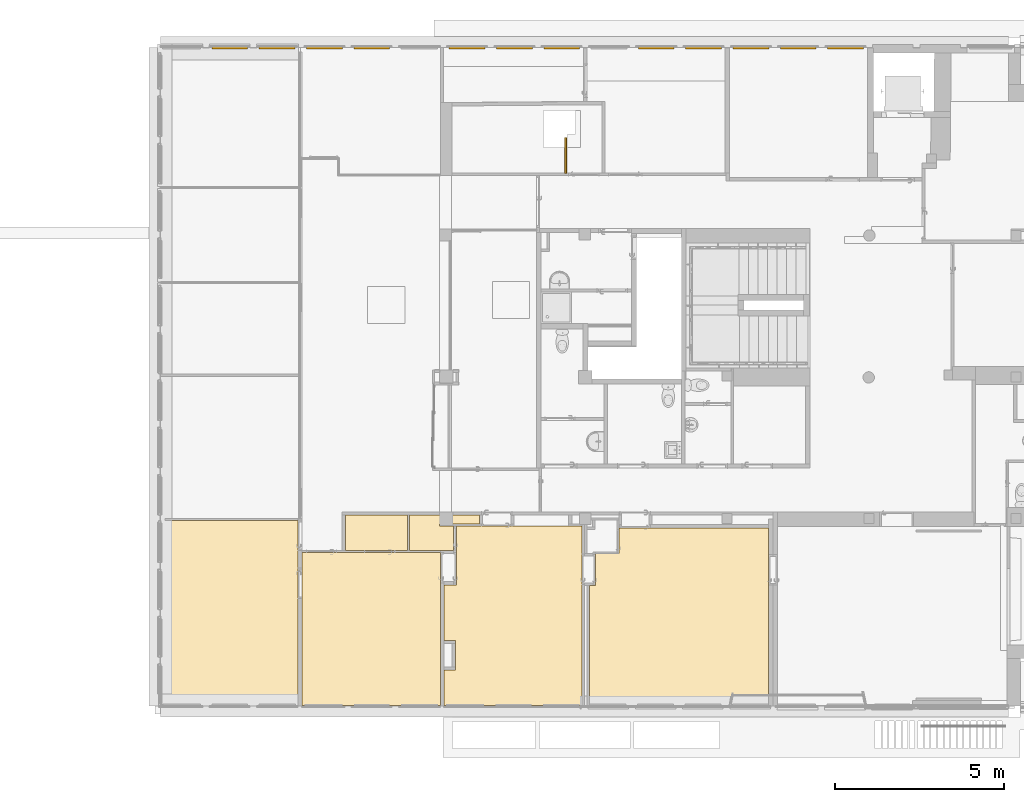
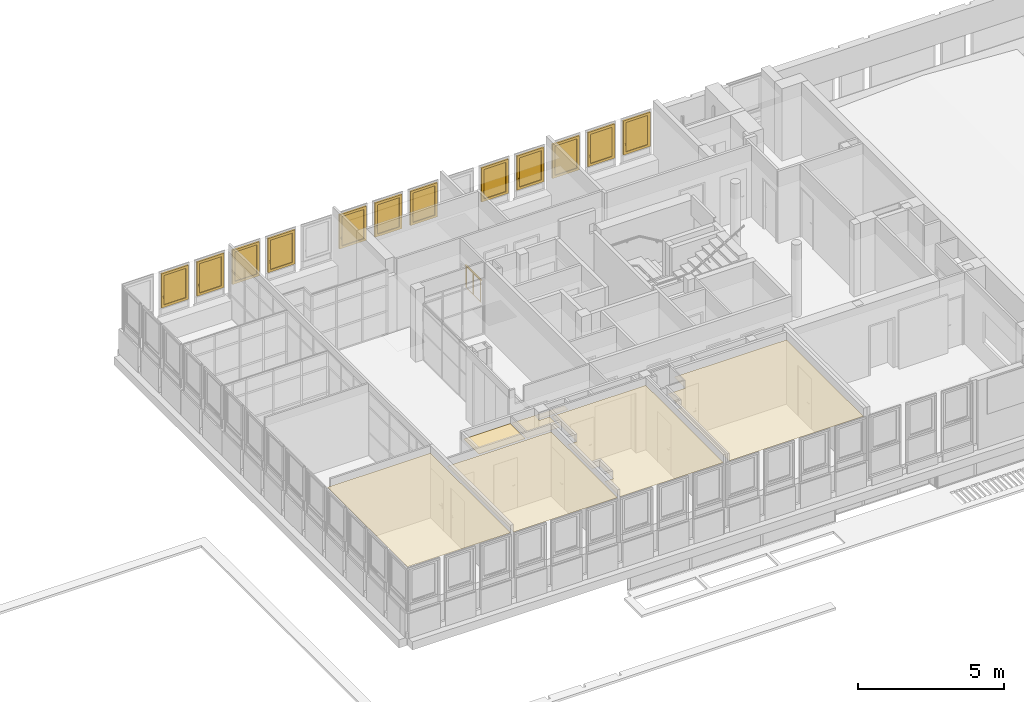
# One storey, part 87 of 97: 12 windows, 6 coverings, 1 railing, 12 elements without a shape of their own.
"""IFC4 building model written with IfcOpenShell, lengths in metres."""

from ifc_helpers import new_model, entity, si_unit, converted_unit, derived_unit, direction, frame, origin, place, context, subcontext, project, spatial, indexed_curve, outline, extrude, polygons, source, transform, mapped, material, material_list, layer, layer_set, constituent, constituent_set, type_object, type_shapes, element, aggregate, save


model = new_model("IFC4")

# Units and contexts
model_context = context("Model", 3, precision=1e-05, world=origin(), true_north=direction((6.12303176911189e-17, 1.0)))
body_context = subcontext(model_context, "Body", "Model", "MODEL_VIEW")
ifc_project = project(units=[si_unit("LENGTHUNIT", "METRE"), si_unit("AREAUNIT", "SQUARE_METRE"), si_unit("VOLUMEUNIT", "CUBIC_METRE"), converted_unit("PLANEANGLEUNIT", "DEGREE", entity("IfcRatioMeasure", 0.0174532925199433), si_unit("PLANEANGLEUNIT", "RADIAN"), dimensions=[0, 0, 0, 0, 0, 0, 0]), si_unit("MASSUNIT", "GRAM", prefix="KILO"), derived_unit("MASSDENSITYUNIT", [(si_unit("MASSUNIT", "GRAM", prefix="KILO"), 1), (si_unit("LENGTHUNIT", "METRE"), -3)]), derived_unit("MOMENTOFINERTIAUNIT", [(si_unit("LENGTHUNIT", "METRE"), 4)]), si_unit("TIMEUNIT", "SECOND"), si_unit("FREQUENCYUNIT", "HERTZ"), si_unit("THERMODYNAMICTEMPERATUREUNIT", "DEGREE_CELSIUS"), derived_unit("THERMALTRANSMITTANCEUNIT", [(si_unit("MASSUNIT", "GRAM", prefix="KILO"), 1), (si_unit("THERMODYNAMICTEMPERATUREUNIT", "KELVIN"), -1), (si_unit("TIMEUNIT", "SECOND"), -3)]), derived_unit("VOLUMETRICFLOWRATEUNIT", [(si_unit("LENGTHUNIT", "METRE"), 3), (si_unit("TIMEUNIT", "SECOND"), -1)]), si_unit("ELECTRICCURRENTUNIT", "AMPERE"), si_unit("ELECTRICVOLTAGEUNIT", "VOLT"), si_unit("POWERUNIT", "WATT"), si_unit("FORCEUNIT", "NEWTON", prefix="KILO"), si_unit("ILLUMINANCEUNIT", "LUX"), si_unit("LUMINOUSFLUXUNIT", "LUMEN"), si_unit("LUMINOUSINTENSITYUNIT", "CANDELA"), derived_unit("USERDEFINED", [(si_unit("MASSUNIT", "GRAM", prefix="KILO"), -1), (si_unit("LENGTHUNIT", "METRE"), -2), (si_unit("TIMEUNIT", "SECOND"), 3), (si_unit("LUMINOUSFLUXUNIT", "LUMEN"), 1)]), derived_unit("LINEARVELOCITYUNIT", [(si_unit("LENGTHUNIT", "METRE"), 1), (si_unit("TIMEUNIT", "SECOND"), -1)]), si_unit("PRESSUREUNIT", "PASCAL"), derived_unit("USERDEFINED", [(si_unit("LENGTHUNIT", "METRE"), -2), (si_unit("MASSUNIT", "GRAM", prefix="KILO"), 1), (si_unit("TIMEUNIT", "SECOND"), -2)]), derived_unit("LINEARFORCEUNIT", [(si_unit("MASSUNIT", "GRAM", prefix="KILO"), 1), (si_unit("LENGTHUNIT", "METRE"), 1), (si_unit("TIMEUNIT", "SECOND"), -2), (si_unit("LENGTHUNIT", "METRE"), -1)]), derived_unit("PLANARFORCEUNIT", [(si_unit("MASSUNIT", "GRAM", prefix="KILO"), 1), (si_unit("LENGTHUNIT", "METRE"), 1), (si_unit("TIMEUNIT", "SECOND"), -2), (si_unit("LENGTHUNIT", "METRE"), -2)])], contexts=[model_context])

# Site, building, storey
site_placement = place(None, origin())
site = spatial("IfcSite", under=ifc_project, at=site_placement, Name="Default", CompositionType="ELEMENT")
building_placement = place(site_placement, origin())
building = spatial("IfcBuilding", under=site, at=building_placement, Name="HOTEL CONSULAIRE BOULOGNE SUR MER", CompositionType="ELEMENT")
storey_placement = place(building_placement, frame((0.0, 0.0, 3.62152697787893)))
storey = spatial("IfcBuildingStorey", under=building, at=storey_placement, Name="Niveau 1", CompositionType="ELEMENT", Elevation=3.62152697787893)

# Curtain wall, window
curtain_wall_type = type_object("IfcCurtainWallType", Name="Mur-rideau:Simple panneau", PredefinedType="NOTDEFINED")
curtain_wall_1_placement = place(storey_placement, frame((0.0, 0.0, -3.62152697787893)))
curtain_wall_1 = element("IfcCurtainWall", 1, at=curtain_wall_1_placement, inside=storey, type_object=curtain_wall_type, Name="Mur-rideau:Simple panneau", ObjectType="Mur-rideau:Simple panneau", PredefinedType="NOTDEFINED")
ifc_material_1 = material(Name="PVC - Blanc", Category="Plastique")
ifc_constituent_1 = constituent(ifc_material_1, Name="PVC - Blanc", Category="Matériaux")
ifc_material_2 = material(Name="Fenêtre - Vitrage", Category="Verre")
ifc_constituent_2 = constituent(ifc_material_2, Name="Fenêtre - Vitrage", Category="Matériaux")
ifc_constituent_set_1 = constituent_set(constituents=[ifc_constituent_1, ifc_constituent_2], Name="MaterialConstituentSet")
ifc_material_list = material_list([ifc_material_1, ifc_material_1])
window_type = type_object("IfcWindowType", Name="MR 1 Vantail:MR 1 Vantail", PartitioningType="NOTDEFINED", PredefinedType="WINDOW", material=ifc_material_list)
shared_shape = source(origin(), body_context, "Body", "Tessellation", [
    polygons([(-0.460646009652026, -0.0492408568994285, 0.472033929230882), (-0.449353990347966, -0.0492408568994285, 0.472033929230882), (-0.447966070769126, -0.0492408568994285, 0.470646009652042), (-0.447966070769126, -0.0492408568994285, 0.459332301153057), (-0.449332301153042, -0.0492408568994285, 0.457966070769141), (-0.460667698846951, -0.0492408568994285, 0.457966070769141), (-0.462033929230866, -0.0492408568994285, 0.459332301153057), (-0.462033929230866, -0.0492408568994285, 0.470646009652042), (-0.462033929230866, -0.0615795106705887, 0.470646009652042), (-0.460646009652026, -0.0621544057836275, 0.472033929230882), (-0.462033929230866, -0.0568932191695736, 0.459332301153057), (-0.462033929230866, -0.063573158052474, 0.452652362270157), (-0.462033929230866, -0.0635731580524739, 0.370000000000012), (-0.462033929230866, -0.0748868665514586, 0.370000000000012), (-0.462033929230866, -0.0748868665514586, 0.457338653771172), (-0.460667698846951, -0.0563273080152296, 0.457966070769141), (-0.449332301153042, -0.0563273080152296, 0.457966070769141), (-0.447966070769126, -0.0568932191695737, 0.459332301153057), (-0.447966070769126, -0.0615795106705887, 0.470646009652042), (-0.447966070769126, -0.0748868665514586, 0.457338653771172), (-0.447966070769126, -0.0748868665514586, 0.370000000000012), (-0.447966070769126, -0.0635731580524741, 0.370000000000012), (-0.447966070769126, -0.0635731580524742, 0.452652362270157), (-0.449353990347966, -0.0621544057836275, 0.472033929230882), (-0.460646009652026, -0.0762747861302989, 0.457913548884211), (-0.460667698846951, -0.0622069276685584, 0.452086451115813), (-0.449332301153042, -0.0622069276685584, 0.452086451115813), (-0.449353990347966, -0.0762747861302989, 0.457913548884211), (-0.460646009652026, -0.0762747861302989, 0.370000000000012), (-0.460667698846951, -0.0622069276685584, 0.370000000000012), (-0.449332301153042, -0.0622069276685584, 0.370000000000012), (-0.449353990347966, -0.0762747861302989, 0.370000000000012)], [[[6, 7, 8, 1, 2, 3, 4, 5]], [[30, 26, 27, 31]], [[9, 10, 1, 8]], [[11, 12, 13, 14, 15, 9, 8, 7]], [[16, 11, 7, 6]], [[16, 6, 5, 17]], [[31, 22, 21, 32, 29, 14, 13, 30]], [[17, 5, 4, 18]], [[3, 19, 20, 21, 22, 23, 18, 4]], [[19, 3, 2, 24]], [[24, 2, 1, 10]], [[15, 25, 10, 9]], [[26, 12, 11, 16]], [[27, 26, 16, 17]], [[27, 17, 18, 23]], [[20, 19, 24, 28]], [[28, 24, 10, 25]], [[29, 25, 15, 14]], [[13, 12, 26, 30]], [[22, 31, 27, 23]], [[32, 21, 20, 28]], [[32, 28, 25, 29]]], closed=True),
    polygons([(-0.46200000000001, -0.0432408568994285, 0.490000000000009), (-0.447999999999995, -0.0432408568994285, 0.490000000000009), (-0.442999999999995, -0.0432408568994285, 0.48500000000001), (-0.442999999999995, -0.0432408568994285, 0.414999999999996), (-0.447999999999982, -0.0432408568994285, 0.410000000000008), (-0.46200000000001, -0.0432408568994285, 0.410000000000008), (-0.466999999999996, -0.0432408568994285, 0.414999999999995), (-0.466999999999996, -0.0432408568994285, 0.48500000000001), (-0.46200000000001, -0.0492408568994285, 0.490000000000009), (-0.466999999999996, -0.0492408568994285, 0.48500000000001), (-0.466999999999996, -0.0492408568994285, 0.414999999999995), (-0.46200000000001, -0.0492408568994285, 0.410000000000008), (-0.447999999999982, -0.0492408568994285, 0.410000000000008), (-0.442999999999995, -0.0492408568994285, 0.414999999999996), (-0.442999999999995, -0.0492408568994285, 0.48500000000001), (-0.447999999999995, -0.0492408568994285, 0.490000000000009)], [[[2, 3, 4, 5, 6, 7, 8, 1]], [[13, 14, 15, 16, 9, 10, 11, 12]], [[9, 1, 8, 10]], [[10, 8, 7, 11]], [[11, 7, 6, 12]], [[12, 6, 5, 13]], [[13, 5, 4, 14]], [[15, 14, 4, 3]], [[15, 3, 2, 16]], [[16, 2, 1, 9]]], closed=True),
    polygons([(0.430000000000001, -0.0192408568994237, 1.32586048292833), (-0.430000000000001, -0.0192408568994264, 1.32586048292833), (-0.430000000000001, -0.0192408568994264, 0.1), (0.430000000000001, -0.0192408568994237, 0.1), (0.430000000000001, -0.00724085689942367, 1.32586048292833), (0.430000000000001, -0.00724085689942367, 0.1), (-0.430000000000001, -0.00724085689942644, 0.1), (-0.430000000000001, -0.00724085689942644, 1.32586048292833)], [[[4, 1, 2, 3]], [[7, 8, 5, 6]], [[2, 1, 5, 8]], [[3, 2, 8, 7]], [[4, 3, 7, 6]], [[1, 4, 6, 5]]], closed=True),
    polygons([(-0.480000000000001, 0.0167591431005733, 1.37586048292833), (-0.480000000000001, -0.043240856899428, 1.37586048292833), (0.480000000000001, -0.043240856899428, 1.37586048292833), (0.48, 0.0167591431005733, 1.37586048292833), (-0.430000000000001, -0.043240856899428, 1.32586048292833), (-0.430000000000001, 0.0167591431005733, 1.32586048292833), (0.430000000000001, 0.0167591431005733, 1.32586048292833), (0.430000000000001, -0.043240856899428, 1.32586048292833), (0.48, -0.043240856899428, 0.0500000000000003), (0.48, 0.0167591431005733, 0.0500000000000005), (0.430000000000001, 0.0167591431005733, 0.1), (0.430000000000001, -0.043240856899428, 0.1), (-0.480000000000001, -0.043240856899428, 0.0500000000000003), (-0.480000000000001, 0.0167591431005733, 0.0500000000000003), (-0.430000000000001, 0.0167591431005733, 0.1), (-0.430000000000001, -0.043240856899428, 0.1)], [[[1, 2, 3, 4]], [[12, 11, 15, 16]], [[5, 6, 7, 8]], [[10, 9, 13, 14]], [[4, 3, 9, 10]], [[16, 15, 6, 5]], [[8, 7, 11, 12]], [[14, 13, 2, 1]], [[9, 3, 2, 13], [16, 5, 8, 12]], [[14, 1, 4, 10], [11, 7, 6, 15]]], closed=True),
    polygons([(-0.47, 0.016759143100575, 1.36586048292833), (-0.47, 0.0267591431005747, 1.36586048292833), (0.47, 0.0267591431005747, 1.36586048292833), (0.47, 0.016759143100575, 1.36586048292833), (-0.48, -0.0432408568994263, 1.37586048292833), (-0.48, 0.016759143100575, 1.37586048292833), (0.48, 0.016759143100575, 1.37586048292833), (0.48, -0.0432408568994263, 1.37586048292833), (-0.53, 0.0267591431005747, 1.42586048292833), (-0.53, -0.0432408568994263, 1.42586048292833), (0.53, -0.0432408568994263, 1.42586048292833), (0.53, 0.0267591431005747, 1.42586048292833), (0.47, 0.0267591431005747, 0.0600000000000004), (0.47, 0.016759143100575, 0.0600000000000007), (0.48, 0.016759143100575, 0.0500000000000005), (0.48, -0.0432408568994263, 0.0500000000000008), (0.53, -0.0432408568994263, 5.41433564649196e-16), (0.53, 0.0267591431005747, 5.41433564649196e-16), (-0.47, 0.0267591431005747, 0.0600000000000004), (-0.47, 0.016759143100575, 0.0600000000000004), (-0.48, 0.016759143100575, 0.0500000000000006), (-0.48, -0.0432408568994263, 0.0500000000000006), (-0.53, -0.0432408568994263, 5.41433564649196e-16), (-0.53, 0.0267591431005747, 5.41433564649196e-16)], [[[1, 2, 3, 4]], [[5, 6, 7, 8]], [[18, 17, 23, 24]], [[9, 10, 11, 12]], [[14, 13, 19, 20]], [[16, 15, 21, 22]], [[4, 3, 13, 14]], [[8, 7, 15, 16]], [[24, 23, 10, 9]], [[12, 11, 17, 18]], [[20, 19, 2, 1]], [[22, 21, 6, 5]], [[24, 9, 12, 18], [13, 3, 2, 19]], [[15, 7, 6, 21], [20, 1, 4, 14]], [[17, 11, 10, 23], [22, 5, 8, 16]]], closed=True),
])
type_shapes(window_type, [shared_shape])
window_1_placement = place(curtain_wall_1_placement, frame((-11.7414199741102, -10.0746323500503, 4.79613951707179)))
window_1 = element("IfcWindow", 2, at=window_1_placement, type_object=window_type, material=ifc_constituent_set_1, Name="MR 1 Vantail:MR 1 Vantail", ObjectType="MR 1 Vantail:MR 1 Vantail", OverallHeight=1.42586048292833, OverallWidth=1.06, PartitioningType="NOTDEFINED", PredefinedType="WINDOW", context=body_context, shape_type="MappedRepresentation", body=[
    mapped(shared_shape, transform((0.0, 0.0, 0.0), scale=1.0)),
])
aggregate(curtain_wall_1, [window_1])

curtain_wall_2_placement = place(storey_placement, frame((0.0, 0.0, -3.62152697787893)))
curtain_wall_2 = element("IfcCurtainWall", 3, at=curtain_wall_2_placement, inside=storey, type_object=curtain_wall_type, Name="Mur-rideau:Simple panneau", ObjectType="Mur-rideau:Simple panneau", PredefinedType="NOTDEFINED")
ifc_constituent_3 = constituent(ifc_material_1, Name="PVC - Blanc", Category="Matériaux")
ifc_constituent_4 = constituent(ifc_material_2, Name="Fenêtre - Vitrage", Category="Matériaux")
ifc_constituent_set_2 = constituent_set(constituents=[ifc_constituent_3, ifc_constituent_4], Name="MaterialConstituentSet")
window_2_placement = place(curtain_wall_2_placement, frame((-10.3414199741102, -10.0746323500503, 4.79613951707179)))
window_2 = element("IfcWindow", 4, at=window_2_placement, type_object=window_type, material=ifc_constituent_set_2, Name="MR 1 Vantail:MR 1 Vantail", ObjectType="MR 1 Vantail:MR 1 Vantail", OverallHeight=1.42586048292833, OverallWidth=1.06, PartitioningType="NOTDEFINED", PredefinedType="WINDOW", context=body_context, shape_type="MappedRepresentation", body=[
    mapped(shared_shape, transform((0.0, 0.0, 0.0), scale=1.0)),
])
aggregate(curtain_wall_2, [window_2])

curtain_wall_3_placement = place(storey_placement, frame((0.0, 0.0, -3.62152697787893)))
curtain_wall_3 = element("IfcCurtainWall", 5, at=curtain_wall_3_placement, inside=storey, type_object=curtain_wall_type, Name="Mur-rideau:Simple panneau", ObjectType="Mur-rideau:Simple panneau", PredefinedType="NOTDEFINED")
ifc_constituent_5 = constituent(ifc_material_1, Name="PVC - Blanc", Category="Matériaux")
ifc_constituent_6 = constituent(ifc_material_2, Name="Fenêtre - Vitrage", Category="Matériaux")
ifc_constituent_set_3 = constituent_set(constituents=[ifc_constituent_5, ifc_constituent_6], Name="MaterialConstituentSet")
window_3_placement = place(curtain_wall_3_placement, frame((-8.94141997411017, -10.0746323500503, 4.79613951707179)))
window_3 = element("IfcWindow", 6, at=window_3_placement, type_object=window_type, material=ifc_constituent_set_3, Name="MR 1 Vantail:MR 1 Vantail", ObjectType="MR 1 Vantail:MR 1 Vantail", OverallHeight=1.42586048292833, OverallWidth=1.06, PartitioningType="NOTDEFINED", PredefinedType="WINDOW", context=body_context, shape_type="MappedRepresentation", body=[
    mapped(shared_shape, transform((0.0, 0.0, 0.0), scale=1.0)),
])
aggregate(curtain_wall_3, [window_3])

curtain_wall_4_placement = place(storey_placement, frame((0.0, 0.0, -3.62152697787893)))
curtain_wall_4 = element("IfcCurtainWall", 7, at=curtain_wall_4_placement, inside=storey, type_object=curtain_wall_type, Name="Mur-rideau:Simple panneau", ObjectType="Mur-rideau:Simple panneau", PredefinedType="NOTDEFINED")
ifc_constituent_7 = constituent(ifc_material_1, Name="PVC - Blanc", Category="Matériaux")
ifc_constituent_8 = constituent(ifc_material_2, Name="Fenêtre - Vitrage", Category="Matériaux")
ifc_constituent_set_4 = constituent_set(constituents=[ifc_constituent_7, ifc_constituent_8], Name="MaterialConstituentSet")
window_4_placement = place(curtain_wall_4_placement, frame((-7.54141997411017, -10.0746323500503, 4.79613951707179)))
window_4 = element("IfcWindow", 8, at=window_4_placement, type_object=window_type, material=ifc_constituent_set_4, Name="MR 1 Vantail:MR 1 Vantail", ObjectType="MR 1 Vantail:MR 1 Vantail", OverallHeight=1.42586048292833, OverallWidth=1.06, PartitioningType="NOTDEFINED", PredefinedType="WINDOW", context=body_context, shape_type="MappedRepresentation", body=[
    mapped(shared_shape, transform((0.0, 0.0, 0.0), scale=1.0)),
])
aggregate(curtain_wall_4, [window_4])

curtain_wall_5_placement = place(storey_placement, frame((0.0, 0.0, -3.62152697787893)))
curtain_wall_5 = element("IfcCurtainWall", 9, at=curtain_wall_5_placement, inside=storey, type_object=curtain_wall_type, Name="Mur-rideau:Simple panneau", ObjectType="Mur-rideau:Simple panneau", PredefinedType="NOTDEFINED")
ifc_constituent_9 = constituent(ifc_material_1, Name="PVC - Blanc", Category="Matériaux")
ifc_constituent_10 = constituent(ifc_material_2, Name="Fenêtre - Vitrage", Category="Matériaux")
ifc_constituent_set_5 = constituent_set(constituents=[ifc_constituent_9, ifc_constituent_10], Name="MaterialConstituentSet")
window_5_placement = place(curtain_wall_5_placement, frame((-4.71977317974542, -10.0746323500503, 4.79613951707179)))
window_5 = element("IfcWindow", 10, at=window_5_placement, type_object=window_type, material=ifc_constituent_set_5, Name="MR 1 Vantail:MR 1 Vantail", ObjectType="MR 1 Vantail:MR 1 Vantail", OverallHeight=1.42586048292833, OverallWidth=1.06, PartitioningType="NOTDEFINED", PredefinedType="WINDOW", context=body_context, shape_type="MappedRepresentation", body=[
    mapped(shared_shape, transform((0.0, 0.0, 0.0), scale=1.0)),
])
aggregate(curtain_wall_5, [window_5])

curtain_wall_6_placement = place(storey_placement, frame((0.0, 0.0, -3.62152697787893)))
curtain_wall_6 = element("IfcCurtainWall", 11, at=curtain_wall_6_placement, inside=storey, type_object=curtain_wall_type, Name="Mur-rideau:Simple panneau", ObjectType="Mur-rideau:Simple panneau", PredefinedType="NOTDEFINED")
ifc_constituent_11 = constituent(ifc_material_1, Name="PVC - Blanc", Category="Matériaux")
ifc_constituent_12 = constituent(ifc_material_2, Name="Fenêtre - Vitrage", Category="Matériaux")
ifc_constituent_set_6 = constituent_set(constituents=[ifc_constituent_11, ifc_constituent_12], Name="MaterialConstituentSet")
window_6_placement = place(curtain_wall_6_placement, frame((-3.31977317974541, -10.0746323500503, 4.79613951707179)))
window_6 = element("IfcWindow", 12, at=window_6_placement, type_object=window_type, material=ifc_constituent_set_6, Name="MR 1 Vantail:MR 1 Vantail", ObjectType="MR 1 Vantail:MR 1 Vantail", OverallHeight=1.42586048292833, OverallWidth=1.06, PartitioningType="NOTDEFINED", PredefinedType="WINDOW", context=body_context, shape_type="MappedRepresentation", body=[
    mapped(shared_shape, transform((0.0, 0.0, 0.0), scale=1.0)),
])
aggregate(curtain_wall_6, [window_6])

curtain_wall_7_placement = place(storey_placement, frame((0.0, 0.0, -3.62152697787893)))
curtain_wall_7 = element("IfcCurtainWall", 13, at=curtain_wall_7_placement, inside=storey, type_object=curtain_wall_type, Name="Mur-rideau:Simple panneau", ObjectType="Mur-rideau:Simple panneau", PredefinedType="NOTDEFINED")
ifc_constituent_13 = constituent(ifc_material_1, Name="PVC - Blanc", Category="Matériaux")
ifc_constituent_14 = constituent(ifc_material_2, Name="Fenêtre - Vitrage", Category="Matériaux")
ifc_constituent_set_7 = constituent_set(constituents=[ifc_constituent_13, ifc_constituent_14], Name="MaterialConstituentSet")
window_7_placement = place(curtain_wall_7_placement, frame((-1.91977317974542, -10.0746323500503, 4.79613951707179)))
window_7 = element("IfcWindow", 14, at=window_7_placement, type_object=window_type, material=ifc_constituent_set_7, Name="MR 1 Vantail:MR 1 Vantail", ObjectType="MR 1 Vantail:MR 1 Vantail", OverallHeight=1.42586048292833, OverallWidth=1.06, PartitioningType="NOTDEFINED", PredefinedType="WINDOW", context=body_context, shape_type="MappedRepresentation", body=[
    mapped(shared_shape, transform((0.0, 0.0, 0.0), scale=1.0)),
])
aggregate(curtain_wall_7, [window_7])

curtain_wall_8_placement = place(storey_placement, frame((0.0, 0.0, -3.62152697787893)))
curtain_wall_8 = element("IfcCurtainWall", 15, at=curtain_wall_8_placement, inside=storey, type_object=curtain_wall_type, Name="Mur-rideau:Simple panneau", ObjectType="Mur-rideau:Simple panneau", PredefinedType="NOTDEFINED")
ifc_constituent_15 = constituent(ifc_material_1, Name="PVC - Blanc", Category="Matériaux")
ifc_constituent_16 = constituent(ifc_material_2, Name="Fenêtre - Vitrage", Category="Matériaux")
ifc_constituent_set_8 = constituent_set(constituents=[ifc_constituent_15, ifc_constituent_16], Name="MaterialConstituentSet")
window_8_placement = place(curtain_wall_8_placement, frame((0.877578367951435, -10.0746323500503, 4.79613951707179)))
window_8 = element("IfcWindow", 16, at=window_8_placement, type_object=window_type, material=ifc_constituent_set_8, Name="MR 1 Vantail:MR 1 Vantail", ObjectType="MR 1 Vantail:MR 1 Vantail", OverallHeight=1.42586048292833, OverallWidth=1.06, PartitioningType="NOTDEFINED", PredefinedType="WINDOW", context=body_context, shape_type="MappedRepresentation", body=[
    mapped(shared_shape, transform((0.0, 0.0, 0.0), scale=1.0)),
])
aggregate(curtain_wall_8, [window_8])

curtain_wall_9_placement = place(storey_placement, frame((0.0, 0.0, -3.62152697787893)))
curtain_wall_9 = element("IfcCurtainWall", 17, at=curtain_wall_9_placement, inside=storey, type_object=curtain_wall_type, Name="Mur-rideau:Simple panneau", ObjectType="Mur-rideau:Simple panneau", PredefinedType="NOTDEFINED")
ifc_constituent_17 = constituent(ifc_material_1, Name="PVC - Blanc", Category="Matériaux")
ifc_constituent_18 = constituent(ifc_material_2, Name="Fenêtre - Vitrage", Category="Matériaux")
ifc_constituent_set_9 = constituent_set(constituents=[ifc_constituent_17, ifc_constituent_18], Name="MaterialConstituentSet")
window_9_placement = place(curtain_wall_9_placement, frame((2.27757836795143, -10.0746323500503, 4.79613951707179)))
window_9 = element("IfcWindow", 18, at=window_9_placement, type_object=window_type, material=ifc_constituent_set_9, Name="MR 1 Vantail:MR 1 Vantail", ObjectType="MR 1 Vantail:MR 1 Vantail", OverallHeight=1.42586048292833, OverallWidth=1.06, PartitioningType="NOTDEFINED", PredefinedType="WINDOW", context=body_context, shape_type="MappedRepresentation", body=[
    mapped(shared_shape, transform((0.0, 0.0, 0.0), scale=1.0)),
])
aggregate(curtain_wall_9, [window_9])

curtain_wall_10_placement = place(storey_placement, frame((0.0, 0.0, -3.62152697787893)))
curtain_wall_10 = element("IfcCurtainWall", 19, at=curtain_wall_10_placement, inside=storey, type_object=curtain_wall_type, Name="Mur-rideau:Simple panneau", ObjectType="Mur-rideau:Simple panneau", PredefinedType="NOTDEFINED")
ifc_constituent_19 = constituent(ifc_material_1, Name="PVC - Blanc", Category="Matériaux")
ifc_constituent_20 = constituent(ifc_material_2, Name="Fenêtre - Vitrage", Category="Matériaux")
ifc_constituent_set_10 = constituent_set(constituents=[ifc_constituent_19, ifc_constituent_20], Name="MaterialConstituentSet")
window_10_placement = place(curtain_wall_10_placement, frame((3.67857836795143, -10.0746323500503, 4.79613951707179)))
window_10 = element("IfcWindow", 20, at=window_10_placement, type_object=window_type, material=ifc_constituent_set_10, Name="MR 1 Vantail:MR 1 Vantail", ObjectType="MR 1 Vantail:MR 1 Vantail", OverallHeight=1.42586048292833, OverallWidth=1.06, PartitioningType="NOTDEFINED", PredefinedType="WINDOW", context=body_context, shape_type="MappedRepresentation", body=[
    mapped(shared_shape, transform((0.0, 0.0, 0.0), scale=1.0)),
])
aggregate(curtain_wall_10, [window_10])

curtain_wall_11_placement = place(storey_placement, frame((0.0, 0.0, -3.62152697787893)))
curtain_wall_11 = element("IfcCurtainWall", 21, at=curtain_wall_11_placement, inside=storey, type_object=curtain_wall_type, Name="Mur-rideau:Simple panneau", ObjectType="Mur-rideau:Simple panneau", PredefinedType="NOTDEFINED")
ifc_constituent_21 = constituent(ifc_material_1, Name="PVC - Blanc", Category="Matériaux")
ifc_constituent_22 = constituent(ifc_material_2, Name="Fenêtre - Vitrage", Category="Matériaux")
ifc_constituent_set_11 = constituent_set(constituents=[ifc_constituent_21, ifc_constituent_22], Name="MaterialConstituentSet")
window_11_placement = place(curtain_wall_11_placement, frame((5.07757836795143, -10.0746323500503, 4.79613951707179)))
window_11 = element("IfcWindow", 22, at=window_11_placement, type_object=window_type, material=ifc_constituent_set_11, Name="MR 1 Vantail:MR 1 Vantail", ObjectType="MR 1 Vantail:MR 1 Vantail", OverallHeight=1.42586048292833, OverallWidth=1.06, PartitioningType="NOTDEFINED", PredefinedType="WINDOW", context=body_context, shape_type="MappedRepresentation", body=[
    mapped(shared_shape, transform((0.0, 0.0, 0.0), scale=1.0)),
])
aggregate(curtain_wall_11, [window_11])

curtain_wall_12_placement = place(storey_placement, frame((0.0, 0.0, -3.62152697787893)))
curtain_wall_12 = element("IfcCurtainWall", 23, at=curtain_wall_12_placement, inside=storey, type_object=curtain_wall_type, Name="Mur-rideau:Simple panneau", ObjectType="Mur-rideau:Simple panneau", PredefinedType="NOTDEFINED")
ifc_constituent_23 = constituent(ifc_material_1, Name="PVC - Blanc", Category="Matériaux")
ifc_constituent_24 = constituent(ifc_material_2, Name="Fenêtre - Vitrage", Category="Matériaux")
ifc_constituent_set_12 = constituent_set(constituents=[ifc_constituent_23, ifc_constituent_24], Name="MaterialConstituentSet")
window_12_placement = place(curtain_wall_12_placement, frame((6.47757836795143, -10.0746323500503, 4.79613951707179)))
window_12 = element("IfcWindow", 24, at=window_12_placement, type_object=window_type, material=ifc_constituent_set_12, Name="MR 1 Vantail:MR 1 Vantail", ObjectType="MR 1 Vantail:MR 1 Vantail", OverallHeight=1.42586048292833, OverallWidth=1.06, PartitioningType="NOTDEFINED", PredefinedType="WINDOW", context=body_context, shape_type="MappedRepresentation", body=[
    mapped(shared_shape, transform((0.0, 0.0, 0.0), scale=1.0)),
])
aggregate(curtain_wall_12, [window_12])

# Coverings
ifc_material_3 = material(Name="Faux-plafond - Trame 600 x 600", Category="Divers")
ifc_layer = layer(ifc_material_3, 0.0, Name="Faux-plafond - Trame 600 x 600", Category="Divers")
ifc_layer_set = layer_set([ifc_layer], Name="Plafond de base:Plafond 600 mm x 1200 mm")
covering_type_1 = type_object("IfcCoveringType", Name="Plafond de base:Plafond 600 mm x 1200 mm", PredefinedType="CEILING")
covering_1_placement = place(storey_placement, frame((-13.7870998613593, -29.5501047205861, 2.7009)))
element("IfcCovering", 25, at=covering_1_placement, inside=storey, type_object=covering_type_1, material=ifc_layer_set, Name="Plafond de base:Plafond 600 mm x 1200 mm", ObjectType="Plafond de base:Plafond 600 mm x 1200 mm", PredefinedType="CEILING", context=body_context, shape_type="Tessellation", body=[
    polygons([(6.49720277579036e-15, 4.23865481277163, 0.0), (4.33146851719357e-15, 2.83865481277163, 0.0), (2.16573425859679e-15, 1.43865481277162, 0.0), (0.0, 1.29944055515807e-14, 0.0), (1.24567988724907, 8.66293703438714e-15, 0.0), (2.64567988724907, 4.33146851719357e-15, 0.0), (4.06269787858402, 0.0, 0.0), (4.06269787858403, 5.47084511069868, 0.0), (8.66293703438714e-15, 5.47084511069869, 0.0)], [[[3, 4, 5, 6, 7, 8, 9, 1, 2]]], closed=True),
])
covering_type_2 = type_object("IfcCoveringType", Name="Plafond de base:Plafond 600 mm x 1200 mm", PredefinedType="CEILING")
covering_2_placement = place(storey_placement, frame((-9.60440198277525, -29.5501047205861, 2.6884)))
element("IfcCovering", 26, at=covering_2_placement, inside=storey, type_object=covering_type_2, material=ifc_layer_set, Name="Plafond de base:Plafond 600 mm x 1200 mm", ObjectType="Plafond de base:Plafond 600 mm x 1200 mm", PredefinedType="CEILING", context=body_context, shape_type="Tessellation", body=[
    polygons([(1.26298200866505, 8.66293703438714e-15, 0.0), (2.66298200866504, 4.33146851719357e-15, 0.0), (4.09725891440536, 0.0, 0.0), (4.09725891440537, 4.52645726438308, 0.0), (7.58006990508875e-15, 4.5264572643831, 0.0), (0.0, 1.29944055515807e-14, 0.0)], [[[5, 6, 1, 2, 3, 4]]], closed=True),
])
covering_type_3 = type_object("IfcCoveringType", Name="Plafond de base:Plafond 600 mm x 1200 mm", PredefinedType="CEILING")
covering_3_placement = place(storey_placement, frame((-5.40714306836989, -29.5501047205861, 2.6886)))
element("IfcCovering", 27, at=covering_3_placement, inside=storey, type_object=covering_type_3, material=ifc_layer_set, Name="Plafond de base:Plafond 600 mm x 1200 mm", ObjectType="Plafond de base:Plafond 600 mm x 1200 mm", PredefinedType="CEILING", context=body_context, shape_type="Tessellation", body=[
    polygons([(1.26572309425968, 8.66293703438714e-15, 0.0), (2.66572309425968, 4.33146851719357e-15, 0.0), (4.08299853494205, 0.0, 0.0), (4.08299853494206, 5.30806462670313, 0.0), (0.36936988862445, 5.30806462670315, 0.0), (0.369369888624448, 3.57680124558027, 0.0), (6.49720277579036e-15, 3.57680124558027, 0.0), (3.24860138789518e-15, 1.92578255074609, 0.0), (0.339336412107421, 1.92578255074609, 0.0), (0.339336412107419, 1.05125939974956, 0.0), (2.16573425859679e-15, 1.05125939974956, 0.0), (0.0, 1.29944055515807e-14, 0.0)], [[[12, 1, 2, 3, 4, 5, 6, 7, 8, 9, 10, 11]]], closed=True),
])
covering_type_4 = type_object("IfcCoveringType", Name="Plafond de base:Plafond 600 mm x 1200 mm", PredefinedType="CEILING")
covering_4_placement = place(storey_placement, frame((-1.09675777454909, -29.5501047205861, 2.6804)))
element("IfcCovering", 28, at=covering_4_placement, inside=storey, type_object=covering_type_4, material=ifc_layer_set, Name="Plafond de base:Plafond 600 mm x 1200 mm", ObjectType="Plafond de base:Plafond 600 mm x 1200 mm", PredefinedType="CEILING", context=body_context, shape_type="Tessellation", body=[
    polygons([(1.15533780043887, 1.29944055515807e-14, 0.0), (2.55533780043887, 8.66293703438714e-15, 0.0), (3.95533780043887, 4.33146851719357e-15, 0.0), (5.29533780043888, 0.0, 0.0), (5.29533780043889, 5.25941326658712, 0.0), (0.869324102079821, 5.25941326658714, 0.0), (0.86932410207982, 4.49441326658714, 0.0), (0.174613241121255, 4.49441326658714, 0.0), (0.174613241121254, 3.55241326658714, 0.0), (5.54969403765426e-15, 3.55241326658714, 0.0), (-1.35358391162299e-16, 1.73258740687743e-14, 0.0)], [[[11, 1, 2, 3, 4, 5, 6, 7, 8, 9, 10]]], closed=True),
])
covering_type_5 = type_object("IfcCoveringType", Name="Plafond de base:Plafond 600 mm x 1200 mm", PredefinedType="CEILING")
covering_5_placement = place(storey_placement, frame((-8.32313726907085, -24.953647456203, 2.7009)))
element("IfcCovering", 29, at=covering_5_placement, inside=storey, type_object=covering_type_5, material=ifc_layer_set, Name="Plafond de base:Plafond 600 mm x 1200 mm", ObjectType="Plafond de base:Plafond 600 mm x 1200 mm", PredefinedType="CEILING", context=body_context, shape_type="Tessellation", body=[
    polygons([(3.24860138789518e-15, 1.03895600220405, 0.0), (1.08286712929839e-15, 4.33146851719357e-15, 0.0), (1.84636408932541, 0.0, 0.0), (1.84636408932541, 1.03895600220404, 0.0)], [[[1, 2, 3, 4]]], closed=True),
])
covering_type_6 = type_object("IfcCoveringType", Name="Plafond de base:Plafond 600 mm x 1200 mm", PredefinedType="CEILING")
covering_6_placement = place(storey_placement, frame((-6.42677317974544, -24.953647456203, 2.7009)))
element("IfcCovering", 30, at=covering_6_placement, inside=storey, type_object=covering_type_6, material=ifc_layer_set, Name="Plafond de base:Plafond 600 mm x 1200 mm", ObjectType="Plafond de base:Plafond 600 mm x 1200 mm", PredefinedType="CEILING", context=body_context, shape_type="Tessellation", body=[
    polygons([(2.16573425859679e-15, 1.03895600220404, 0.0), (-1.08286712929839e-15, 4.33146851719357e-15, 0.0), (0.915999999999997, 0.0, 0.0), (1.309, 0.0, 0.0), (1.309, 0.711607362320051, 0.0), (0.894244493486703, 0.711607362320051, 0.0), (0.894244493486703, 0.781607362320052, 0.0), (2.08087648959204, 0.781607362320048, 0.0), (2.08087648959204, 1.03895600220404, 0.0)], [[[2, 3, 4, 5, 6, 7, 8, 9, 1]]], closed=True),
])

# Railing
ifc_material_4 = material(Name="Peinture - Grise", Category="Peinture")
railing_placement = place(storey_placement, frame((-1.83739488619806, -13.8062194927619, -0.0199999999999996)))
element("IfcRailing", 31, at=railing_placement, inside=storey, material=ifc_material_4, Name="Garde-corps:Type Bateau", ObjectType="Garde-corps:Type Bateau", PredefinedType="NOTDEFINED", context=body_context, shape_type="SweptSolid", body=[
    extrude(outline(indexed_curve([(-0.00599999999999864, -0.0199999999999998), (0.0060000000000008, -0.0199999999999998), (0.0060000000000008, 0.0200000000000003), (-0.00599999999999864, 0.0200000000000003), (-0.00599999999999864, -0.0199999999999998)], self_intersect=False)), frame((0.041595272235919, 0.531388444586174, 0.0199999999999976), z_axis=(0.0, 0.0, 1.0), x_axis=(0.0, 1.0, 0.0)), (0.0, 0.0, 1.0), 0.869846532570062),
    extrude(outline(indexed_curve([(-0.0060000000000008, -0.0200000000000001), (0.00599999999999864, -0.0200000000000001), (0.00599999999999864, 0.0200000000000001), (-0.0060000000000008, 0.0200000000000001), (-0.0060000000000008, -0.0200000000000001)], self_intersect=False)), frame((0.0415952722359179, 0.0499999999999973, 0.0199999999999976), z_axis=(0.0, 0.0, 1.0), x_axis=(0.0, 1.0, 0.0)), (0.0, 0.0, 1.0), 0.869846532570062),
    extrude(outline(indexed_curve([(-0.0060000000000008, -0.0200000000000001), (0.00599999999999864, -0.0200000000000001), (0.00599999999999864, 0.0200000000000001), (-0.0060000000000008, 0.0200000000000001), (-0.0060000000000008, -0.0200000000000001)], self_intersect=False)), frame((0.0415952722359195, 1.01277688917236, 0.0199999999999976), z_axis=(0.0, 0.0, 1.0), x_axis=(0.0, 1.0, 0.0)), (0.0, 0.0, 1.0), 0.869846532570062),
    extrude(outline(indexed_curve([(-0.531388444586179, -0.0100000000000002), (0.531388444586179, -0.0100000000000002), (0.531388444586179, 0.00999999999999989), (-0.531388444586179, 0.00999999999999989), (-0.531388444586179, -0.0100000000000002)], self_intersect=False)), frame((0.0415952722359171, 0.531388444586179, 0.0), z_axis=(0.0, 0.0, 1.0), x_axis=(0.0, -1.0, 0.0)), (0.0, 0.0, 1.0), 0.0199999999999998),
    extrude(outline(indexed_curve([(-0.0109067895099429, -0.0384843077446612), (0.00177588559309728, -0.0384843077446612), (0.0141514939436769, -0.0318300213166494), (0.0240801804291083, -0.0196720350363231), (0.029845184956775, -0.00411257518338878), (0.0304496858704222, 0.0121579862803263), (0.0257891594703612, 0.0263263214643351), (0.0166694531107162, 0.0359425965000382), (0.010906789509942, 0.038484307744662), (-0.00177588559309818, 0.038484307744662), (-0.0141514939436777, 0.0318300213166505), (-0.0240801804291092, 0.0196720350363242), (-0.0298451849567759, 0.0041125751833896), (-0.030449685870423, -0.0121579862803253), (-0.0257891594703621, -0.026326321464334), (-0.0166694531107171, -0.0359425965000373), (-0.0109067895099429, -0.0384843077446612)], self_intersect=False)), frame((0.0415952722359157, 0.0, 0.92), z_axis=(0.0, 1.0, 0.0), x_axis=(0.27266973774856, 0.0, 0.962107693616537)), (0.0, 0.0, 1.0), 1.06277688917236),
])

save(model, "model.ifc")
